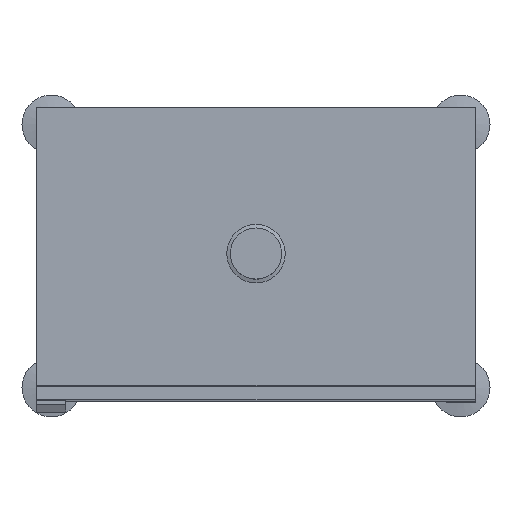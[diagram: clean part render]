
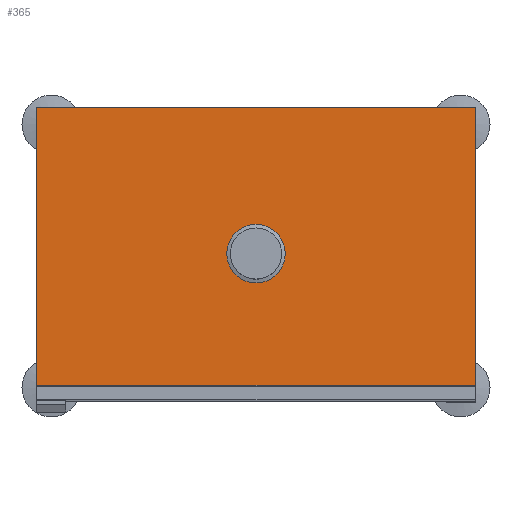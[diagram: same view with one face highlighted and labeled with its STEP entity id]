
A CAD part, top view. The second image highlights one B-rep face of the part: STEP entity #365.
In plain terms, the highlighted planar face has unit normal (0, 0, 1).
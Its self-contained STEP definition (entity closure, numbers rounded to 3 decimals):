
#51 = VERTEX_POINT('',#52);
#52 = CARTESIAN_POINT('',(0.,0.,800.));
#59 = PLANE('',#60);
#60 = AXIS2_PLACEMENT_3D('',#61,#62,#63);
#61 = CARTESIAN_POINT('',(0.,0.,0.));
#62 = DIRECTION('',(1.,0.,-0.));
#63 = DIRECTION('',(0.,0.,1.));
#71 = PLANE('',#72);
#72 = AXIS2_PLACEMENT_3D('',#73,#74,#75);
#73 = CARTESIAN_POINT('',(0.,0.,0.));
#74 = DIRECTION('',(-0.,1.,0.));
#75 = DIRECTION('',(0.,0.,1.));
#112 = VERTEX_POINT('',#113);
#113 = CARTESIAN_POINT('',(0.,380.,800.));
#127 = PLANE('',#128);
#128 = AXIS2_PLACEMENT_3D('',#129,#130,#131);
#129 = CARTESIAN_POINT('',(0.,380.,0.));
#130 = DIRECTION('',(-0.,1.,0.));
#131 = DIRECTION('',(0.,0.,1.));
#139 = EDGE_CURVE('',#51,#112,#140,.T.);
#140 = SURFACE_CURVE('',#141,(#145,#152),.PCURVE_S1.);
#141 = LINE('',#142,#143);
#142 = CARTESIAN_POINT('',(0.,0.,800.));
#143 = VECTOR('',#144,1.);
#144 = DIRECTION('',(-0.,1.,0.));
#145 = PCURVE('',#59,#146);
#146 = DEFINITIONAL_REPRESENTATION('',(#147),#151);
#147 = LINE('',#148,#149);
#148 = CARTESIAN_POINT('',(800.,0.));
#149 = VECTOR('',#150,1.);
#150 = DIRECTION('',(0.,-1.));
#151 = ( GEOMETRIC_REPRESENTATION_CONTEXT(2) 
PARAMETRIC_REPRESENTATION_CONTEXT() REPRESENTATION_CONTEXT('2D SPACE',''
  ) );
#152 = PCURVE('',#153,#158);
#153 = PLANE('',#154);
#154 = AXIS2_PLACEMENT_3D('',#155,#156,#157);
#155 = CARTESIAN_POINT('',(0.,0.,800.));
#156 = DIRECTION('',(0.,0.,1.));
#157 = DIRECTION('',(1.,0.,-0.));
#158 = DEFINITIONAL_REPRESENTATION('',(#159),#163);
#159 = LINE('',#160,#161);
#160 = CARTESIAN_POINT('',(0.,0.));
#161 = VECTOR('',#162,1.);
#162 = DIRECTION('',(0.,1.));
#163 = ( GEOMETRIC_REPRESENTATION_CONTEXT(2) 
PARAMETRIC_REPRESENTATION_CONTEXT() REPRESENTATION_CONTEXT('2D SPACE',''
  ) );
#171 = VERTEX_POINT('',#172);
#172 = CARTESIAN_POINT('',(600.,0.,800.));
#179 = PLANE('',#180);
#180 = AXIS2_PLACEMENT_3D('',#181,#182,#183);
#181 = CARTESIAN_POINT('',(600.,0.,0.));
#182 = DIRECTION('',(1.,0.,-0.));
#183 = DIRECTION('',(0.,0.,1.));
#222 = VERTEX_POINT('',#223);
#223 = CARTESIAN_POINT('',(600.,380.,800.));
#244 = EDGE_CURVE('',#171,#222,#245,.T.);
#245 = SURFACE_CURVE('',#246,(#250,#257),.PCURVE_S1.);
#246 = LINE('',#247,#248);
#247 = CARTESIAN_POINT('',(600.,0.,800.));
#248 = VECTOR('',#249,1.);
#249 = DIRECTION('',(-0.,1.,0.));
#250 = PCURVE('',#179,#251);
#251 = DEFINITIONAL_REPRESENTATION('',(#252),#256);
#252 = LINE('',#253,#254);
#253 = CARTESIAN_POINT('',(800.,0.));
#254 = VECTOR('',#255,1.);
#255 = DIRECTION('',(0.,-1.));
#256 = ( GEOMETRIC_REPRESENTATION_CONTEXT(2) 
PARAMETRIC_REPRESENTATION_CONTEXT() REPRESENTATION_CONTEXT('2D SPACE',''
  ) );
#257 = PCURVE('',#153,#258);
#258 = DEFINITIONAL_REPRESENTATION('',(#259),#263);
#259 = LINE('',#260,#261);
#260 = CARTESIAN_POINT('',(600.,0.));
#261 = VECTOR('',#262,1.);
#262 = DIRECTION('',(0.,1.));
#263 = ( GEOMETRIC_REPRESENTATION_CONTEXT(2) 
PARAMETRIC_REPRESENTATION_CONTEXT() REPRESENTATION_CONTEXT('2D SPACE',''
  ) );
#290 = EDGE_CURVE('',#51,#171,#291,.T.);
#291 = SURFACE_CURVE('',#292,(#296,#303),.PCURVE_S1.);
#292 = LINE('',#293,#294);
#293 = CARTESIAN_POINT('',(0.,0.,800.));
#294 = VECTOR('',#295,1.);
#295 = DIRECTION('',(1.,0.,-0.));
#296 = PCURVE('',#71,#297);
#297 = DEFINITIONAL_REPRESENTATION('',(#298),#302);
#298 = LINE('',#299,#300);
#299 = CARTESIAN_POINT('',(800.,0.));
#300 = VECTOR('',#301,1.);
#301 = DIRECTION('',(0.,1.));
#302 = ( GEOMETRIC_REPRESENTATION_CONTEXT(2) 
PARAMETRIC_REPRESENTATION_CONTEXT() REPRESENTATION_CONTEXT('2D SPACE',''
  ) );
#303 = PCURVE('',#153,#304);
#304 = DEFINITIONAL_REPRESENTATION('',(#305),#309);
#305 = LINE('',#306,#307);
#306 = CARTESIAN_POINT('',(0.,0.));
#307 = VECTOR('',#308,1.);
#308 = DIRECTION('',(1.,0.));
#309 = ( GEOMETRIC_REPRESENTATION_CONTEXT(2) 
PARAMETRIC_REPRESENTATION_CONTEXT() REPRESENTATION_CONTEXT('2D SPACE',''
  ) );
#337 = EDGE_CURVE('',#112,#222,#338,.T.);
#338 = SURFACE_CURVE('',#339,(#343,#350),.PCURVE_S1.);
#339 = LINE('',#340,#341);
#340 = CARTESIAN_POINT('',(0.,380.,800.));
#341 = VECTOR('',#342,1.);
#342 = DIRECTION('',(1.,0.,-0.));
#343 = PCURVE('',#127,#344);
#344 = DEFINITIONAL_REPRESENTATION('',(#345),#349);
#345 = LINE('',#346,#347);
#346 = CARTESIAN_POINT('',(800.,0.));
#347 = VECTOR('',#348,1.);
#348 = DIRECTION('',(0.,1.));
#349 = ( GEOMETRIC_REPRESENTATION_CONTEXT(2) 
PARAMETRIC_REPRESENTATION_CONTEXT() REPRESENTATION_CONTEXT('2D SPACE',''
  ) );
#350 = PCURVE('',#153,#351);
#351 = DEFINITIONAL_REPRESENTATION('',(#352),#356);
#352 = LINE('',#353,#354);
#353 = CARTESIAN_POINT('',(0.,380.));
#354 = VECTOR('',#355,1.);
#355 = DIRECTION('',(1.,0.));
#356 = ( GEOMETRIC_REPRESENTATION_CONTEXT(2) 
PARAMETRIC_REPRESENTATION_CONTEXT() REPRESENTATION_CONTEXT('2D SPACE',''
  ) );
#365 = ADVANCED_FACE('',(#366),#153,.T.);
#366 = FACE_BOUND('',#367,.T.);
#367 = EDGE_LOOP('',(#368,#369,#370,#371));
#368 = ORIENTED_EDGE('',*,*,#139,.F.);
#369 = ORIENTED_EDGE('',*,*,#290,.T.);
#370 = ORIENTED_EDGE('',*,*,#244,.T.);
#371 = ORIENTED_EDGE('',*,*,#337,.F.);
